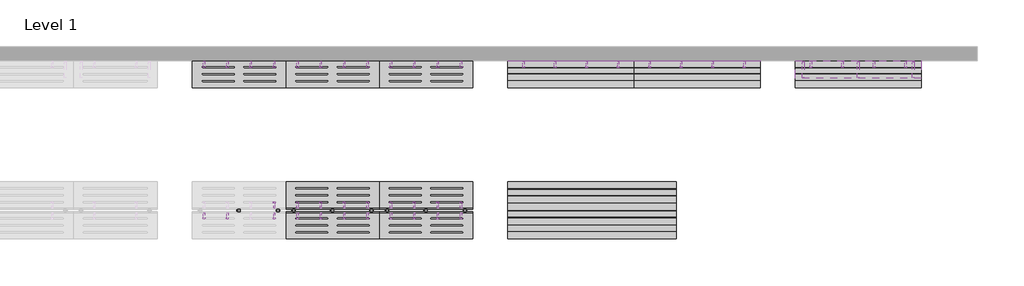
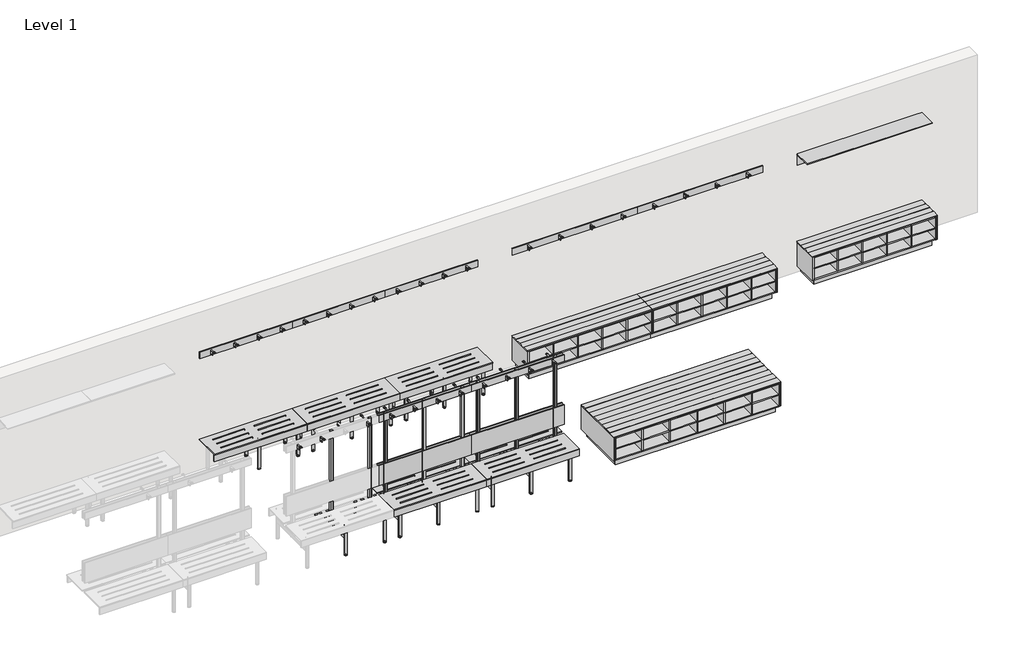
# One storey, part 2 of 2: 75 furniture elements.
"""IFC4 building model written with IfcOpenShell, lengths in millimetres."""

from ifc_helpers import new_model, si_unit, origin, place, context, project, spatial, transform, mapped, element, save
from components import bracket_7d752e66, standard_dd65e5c9, standard_a7376189, standard_561e798c, standard_2dcb62da, standard_f5ae554c, standard_744cab76, standard_9dd12805, standard_776e0859, standard_368e6f3f, standard_c98aecbe, standard_89b8acd5, standard_566b8f76, standard_1e83d22c

model = new_model("IFC4")

# Units and contexts
model_context = context("Model", 3, world=origin())
ifc_project = project(units=[si_unit("LENGTHUNIT", "METRE", prefix="MILLI")], contexts=[model_context])

# Site, building, storey
site = spatial("IfcSite", under=ifc_project)
building = spatial("IfcBuilding", under=site)
storey = spatial("IfcBuildingStorey", under=building, Name="Level 1", Elevation=0.0)

# Furniture
placement = place(None, origin())
bracket_shape = bracket_7d752e66(model_context)
element("IfcFurniture", 1, ObjectType="X_Bench-Bracket-Duracube-Shelving : Bracket", at=placement, inside=storey, context=model_context, shape_type="MappedRepresentation", body=[
    mapped(bracket_shape, transform((630.8316104, 4193.679514, 1717.0), x_axis=(1.0, 0.0, 0.0), y_axis=(0.0, 0.0, 1.0), z_axis=(0.0, -1.0, 0.0))),
])
element("IfcFurniture", 2, ObjectType="X_Bench-Bracket-Duracube-Shelving : Bracket", at=placement, inside=storey, context=model_context, shape_type="MappedRepresentation", body=[
    mapped(bracket_shape, transform((1417.3316104, 4193.679514, 1717.0), x_axis=(1.0, 0.0, 0.0), y_axis=(0.0, 0.0, 1.0), z_axis=(0.0, -1.0, 0.0))),
])
element("IfcFurniture", 3, ObjectType="X_Bench-Bracket-Duracube-Shelving : Bracket", at=placement, inside=storey, context=model_context, shape_type="MappedRepresentation", body=[
    mapped(bracket_shape, transform((2203.8316104, 4193.679514, 1717.0), x_axis=(1.0, 0.0, 0.0), y_axis=(0.0, 0.0, 1.0), z_axis=(0.0, -1.0, 0.0))),
])
standard_shape = standard_dd65e5c9(model_context)
element("IfcFurniture", 4, ObjectType="X_Partition-Robe Hook-Duracube-Door Stop : Standard", at=placement, inside=storey, context=model_context, shape_type="MappedRepresentation", body=[
    mapped(standard_shape, transform((-5916.001723, 2099.9051004, 1619.5), x_axis=(-1.0, 0.0, 0.0), y_axis=(0.0, 0.0, 1.0), z_axis=(0.0, 1.0, 0.0))),
])
element("IfcFurniture", 5, ObjectType="X_Partition-Robe Hook-Duracube-Door Stop : Standard", at=placement, inside=storey, context=model_context, shape_type="MappedRepresentation", body=[
    mapped(standard_shape, transform((-6249.3350563, 2099.9051004, 1619.5), x_axis=(-1.0, 0.0, 0.0), y_axis=(0.0, 0.0, 1.0), z_axis=(0.0, 1.0, 0.0))),
])
element("IfcFurniture", 6, ObjectType="X_Partition-Robe Hook-Duracube-Door Stop : Standard", at=placement, inside=storey, context=model_context, shape_type="MappedRepresentation", body=[
    mapped(standard_shape, transform((-5582.6683896, 2099.9051004, 1619.5), x_axis=(-1.0, 0.0, 0.0), y_axis=(0.0, 0.0, 1.0), z_axis=(0.0, 1.0, 0.0))),
])
element("IfcFurniture", 7, ObjectType="X_Partition-Robe Hook-Duracube-Door Stop : Standard", at=placement, inside=storey, context=model_context, shape_type="MappedRepresentation", body=[
    mapped(standard_shape, transform((-6582.6683896, 2099.9051004, 1619.5), x_axis=(-1.0, 0.0, 0.0), y_axis=(0.0, 0.0, 1.0), z_axis=(0.0, 1.0, 0.0))),
])
element("IfcFurniture", 8, ObjectType="X_Partition-Robe Hook-Duracube-Door Stop : Standard", at=placement, inside=storey, context=model_context, shape_type="MappedRepresentation", body=[
    mapped(standard_shape, transform((-5916.001723, 2038.9051004, 1619.5), x_axis=(1.0, 0.0, 0.0), y_axis=(0.0, 0.0, 1.0), z_axis=(0.0, -1.0, 0.0))),
])
element("IfcFurniture", 9, ObjectType="X_Partition-Robe Hook-Duracube-Door Stop : Standard", at=placement, inside=storey, context=model_context, shape_type="MappedRepresentation", body=[
    mapped(standard_shape, transform((-6249.3350563, 2038.9051004, 1619.5), x_axis=(1.0, 0.0, 0.0), y_axis=(0.0, 0.0, 1.0), z_axis=(0.0, -1.0, 0.0))),
])
element("IfcFurniture", 10, ObjectType="X_Partition-Robe Hook-Duracube-Door Stop : Standard", at=placement, inside=storey, context=model_context, shape_type="MappedRepresentation", body=[
    mapped(standard_shape, transform((-5582.6683896, 2038.9051004, 1619.5), x_axis=(1.0, 0.0, 0.0), y_axis=(0.0, 0.0, 1.0), z_axis=(0.0, -1.0, 0.0))),
])
element("IfcFurniture", 11, ObjectType="X_Partition-Robe Hook-Duracube-Door Stop : Standard", at=placement, inside=storey, context=model_context, shape_type="MappedRepresentation", body=[
    mapped(standard_shape, transform((-6582.6683896, 2038.9051004, 1619.5), x_axis=(1.0, 0.0, 0.0), y_axis=(0.0, 0.0, 1.0), z_axis=(0.0, -1.0, 0.0))),
])
element("IfcFurniture", 12, ObjectType="X_Partition-Robe Hook-Duracube-Door Stop : Standard", at=placement, inside=storey, context=model_context, shape_type="MappedRepresentation", body=[
    mapped(standard_shape, transform((-4582.6683896, 2099.9051004, 1619.5), x_axis=(-1.0, 0.0, 0.0), y_axis=(0.0, 0.0, 1.0), z_axis=(0.0, 1.0, 0.0))),
])
element("IfcFurniture", 13, ObjectType="X_Partition-Robe Hook-Duracube-Door Stop : Standard", at=placement, inside=storey, context=model_context, shape_type="MappedRepresentation", body=[
    mapped(standard_shape, transform((-4916.001723, 2099.9051004, 1619.5), x_axis=(-1.0, 0.0, 0.0), y_axis=(0.0, 0.0, 1.0), z_axis=(0.0, 1.0, 0.0))),
])
element("IfcFurniture", 14, ObjectType="X_Partition-Robe Hook-Duracube-Door Stop : Standard", at=placement, inside=storey, context=model_context, shape_type="MappedRepresentation", body=[
    mapped(standard_shape, transform((-4249.3350563, 2099.9051004, 1619.5), x_axis=(-1.0, 0.0, 0.0), y_axis=(0.0, 0.0, 1.0), z_axis=(0.0, 1.0, 0.0))),
])
element("IfcFurniture", 15, ObjectType="X_Partition-Robe Hook-Duracube-Door Stop : Standard", at=placement, inside=storey, context=model_context, shape_type="MappedRepresentation", body=[
    mapped(standard_shape, transform((-5249.3350563, 2099.9051004, 1619.5), x_axis=(-1.0, 0.0, 0.0), y_axis=(0.0, 0.0, 1.0), z_axis=(0.0, 1.0, 0.0))),
])
element("IfcFurniture", 16, ObjectType="X_Partition-Robe Hook-Duracube-Door Stop : Standard", at=placement, inside=storey, context=model_context, shape_type="MappedRepresentation", body=[
    mapped(standard_shape, transform((-4582.6683896, 2038.9051004, 1619.5), x_axis=(1.0, 0.0, 0.0), y_axis=(0.0, 0.0, 1.0), z_axis=(0.0, -1.0, 0.0))),
])
element("IfcFurniture", 17, ObjectType="X_Partition-Robe Hook-Duracube-Door Stop : Standard", at=placement, inside=storey, context=model_context, shape_type="MappedRepresentation", body=[
    mapped(standard_shape, transform((-4916.001723, 2038.9051004, 1619.5), x_axis=(1.0, 0.0, 0.0), y_axis=(0.0, 0.0, 1.0), z_axis=(0.0, -1.0, 0.0))),
])
element("IfcFurniture", 18, ObjectType="X_Partition-Robe Hook-Duracube-Door Stop : Standard", at=placement, inside=storey, context=model_context, shape_type="MappedRepresentation", body=[
    mapped(standard_shape, transform((-4249.3350563, 2038.9051004, 1619.5), x_axis=(1.0, 0.0, 0.0), y_axis=(0.0, 0.0, 1.0), z_axis=(0.0, -1.0, 0.0))),
])
element("IfcFurniture", 19, ObjectType="X_Partition-Robe Hook-Duracube-Door Stop : Standard", at=placement, inside=storey, context=model_context, shape_type="MappedRepresentation", body=[
    mapped(standard_shape, transform((-5249.3350563, 2038.9051004, 1619.5), x_axis=(1.0, 0.0, 0.0), y_axis=(0.0, 0.0, 1.0), z_axis=(0.0, -1.0, 0.0))),
])
element("IfcFurniture", 20, ObjectType="X_Partition-Robe Hook-Duracube-Door Stop : Standard", at=placement, inside=storey, context=model_context, shape_type="MappedRepresentation", body=[
    mapped(standard_shape, transform((-6916.001723, 2099.9051004, 1619.5), x_axis=(-1.0, 0.0, 0.0), y_axis=(0.0, 0.0, 1.0), z_axis=(0.0, 1.0, 0.0))),
])
element("IfcFurniture", 21, ObjectType="X_Partition-Robe Hook-Duracube-Door Stop : Standard", at=placement, inside=storey, context=model_context, shape_type="MappedRepresentation", body=[
    mapped(standard_shape, transform((-7582.6683896, 2038.9051004, 1619.5), x_axis=(1.0, 0.0, 0.0), y_axis=(0.0, 0.0, 1.0), z_axis=(0.0, -1.0, 0.0))),
])
element("IfcFurniture", 22, ObjectType="X_Partition-Robe Hook-Duracube-Door Stop : Standard", at=placement, inside=storey, context=model_context, shape_type="MappedRepresentation", body=[
    mapped(standard_shape, transform((-6916.001723, 2038.9051004, 1619.5), x_axis=(1.0, 0.0, 0.0), y_axis=(0.0, 0.0, 1.0), z_axis=(0.0, -1.0, 0.0))),
])
element("IfcFurniture", 23, ObjectType="X_Partition-Robe Hook-Duracube-Door Stop : Standard", at=placement, inside=storey, context=model_context, shape_type="MappedRepresentation", body=[
    mapped(standard_shape, transform((-7916.001723, 2038.9051004, 1619.5), x_axis=(1.0, 0.0, 0.0), y_axis=(0.0, 0.0, 1.0), z_axis=(0.0, -1.0, 0.0))),
])
element("IfcFurniture", 24, ObjectType="X_Partition-Robe Hook-Duracube-Door Stop : Standard", at=placement, inside=storey, context=model_context, shape_type="MappedRepresentation", body=[
    mapped(standard_shape, transform((-5916.001723, 4193.679514, 1749.5), x_axis=(1.0, 0.0, 0.0), y_axis=(0.0, 0.0, 1.0), z_axis=(0.0, -1.0, 0.0))),
])
element("IfcFurniture", 25, ObjectType="X_Partition-Robe Hook-Duracube-Door Stop : Standard", at=placement, inside=storey, context=model_context, shape_type="MappedRepresentation", body=[
    mapped(standard_shape, transform((-6249.3350563, 4193.679514, 1749.5), x_axis=(1.0, 0.0, 0.0), y_axis=(0.0, 0.0, 1.0), z_axis=(0.0, -1.0, 0.0))),
])
element("IfcFurniture", 26, ObjectType="X_Partition-Robe Hook-Duracube-Door Stop : Standard", at=placement, inside=storey, context=model_context, shape_type="MappedRepresentation", body=[
    mapped(standard_shape, transform((-5582.6683896, 4193.679514, 1749.5), x_axis=(1.0, 0.0, 0.0), y_axis=(0.0, 0.0, 1.0), z_axis=(0.0, -1.0, 0.0))),
])
element("IfcFurniture", 27, ObjectType="X_Partition-Robe Hook-Duracube-Door Stop : Standard", at=placement, inside=storey, context=model_context, shape_type="MappedRepresentation", body=[
    mapped(standard_shape, transform((-6582.6683896, 4193.679514, 1749.5), x_axis=(1.0, 0.0, 0.0), y_axis=(0.0, 0.0, 1.0), z_axis=(0.0, -1.0, 0.0))),
])
element("IfcFurniture", 28, ObjectType="X_Partition-Robe Hook-Duracube-Door Stop : Standard", at=placement, inside=storey, context=model_context, shape_type="MappedRepresentation", body=[
    mapped(standard_shape, transform((-4582.6683896, 4193.679514, 1749.5), x_axis=(1.0, 0.0, 0.0), y_axis=(0.0, 0.0, 1.0), z_axis=(0.0, -1.0, 0.0))),
])
element("IfcFurniture", 29, ObjectType="X_Partition-Robe Hook-Duracube-Door Stop : Standard", at=placement, inside=storey, context=model_context, shape_type="MappedRepresentation", body=[
    mapped(standard_shape, transform((-4916.001723, 4193.679514, 1749.5), x_axis=(1.0, 0.0, 0.0), y_axis=(0.0, 0.0, 1.0), z_axis=(0.0, -1.0, 0.0))),
])
element("IfcFurniture", 30, ObjectType="X_Partition-Robe Hook-Duracube-Door Stop : Standard", at=placement, inside=storey, context=model_context, shape_type="MappedRepresentation", body=[
    mapped(standard_shape, transform((-4249.3350563, 4193.679514, 1749.5), x_axis=(1.0, 0.0, 0.0), y_axis=(0.0, 0.0, 1.0), z_axis=(0.0, -1.0, 0.0))),
])
element("IfcFurniture", 31, ObjectType="X_Partition-Robe Hook-Duracube-Door Stop : Standard", at=placement, inside=storey, context=model_context, shape_type="MappedRepresentation", body=[
    mapped(standard_shape, transform((-5249.3350563, 4193.679514, 1749.5), x_axis=(1.0, 0.0, 0.0), y_axis=(0.0, 0.0, 1.0), z_axis=(0.0, -1.0, 0.0))),
])
element("IfcFurniture", 32, ObjectType="X_Partition-Robe Hook-Duracube-Door Stop : Standard", at=placement, inside=storey, context=model_context, shape_type="MappedRepresentation", body=[
    mapped(standard_shape, transform((-7249.3350563, 4193.679514, 1749.5), x_axis=(1.0, 0.0, 0.0), y_axis=(0.0, 0.0, 1.0), z_axis=(0.0, -1.0, 0.0))),
])
element("IfcFurniture", 33, ObjectType="X_Partition-Robe Hook-Duracube-Door Stop : Standard", at=placement, inside=storey, context=model_context, shape_type="MappedRepresentation", body=[
    mapped(standard_shape, transform((-7582.6683896, 4193.679514, 1749.5), x_axis=(1.0, 0.0, 0.0), y_axis=(0.0, 0.0, 1.0), z_axis=(0.0, -1.0, 0.0))),
])
element("IfcFurniture", 34, ObjectType="X_Partition-Robe Hook-Duracube-Door Stop : Standard", at=placement, inside=storey, context=model_context, shape_type="MappedRepresentation", body=[
    mapped(standard_shape, transform((-6916.001723, 4193.679514, 1749.5), x_axis=(1.0, 0.0, 0.0), y_axis=(0.0, 0.0, 1.0), z_axis=(0.0, -1.0, 0.0))),
])
element("IfcFurniture", 35, ObjectType="X_Partition-Robe Hook-Duracube-Door Stop : Standard", at=placement, inside=storey, context=model_context, shape_type="MappedRepresentation", body=[
    mapped(standard_shape, transform((-7916.001723, 4193.679514, 1749.5), x_axis=(1.0, 0.0, 0.0), y_axis=(0.0, 0.0, 1.0), z_axis=(0.0, -1.0, 0.0))),
])
element("IfcFurniture", 36, ObjectType="X_Partition-Robe Hook-Duracube-Door Stop : Standard", at=placement, inside=storey, context=model_context, shape_type="MappedRepresentation", body=[
    mapped(standard_shape, transform((-2457.6683896, 4193.679514, 1749.5), x_axis=(1.0, 0.0, 0.0), y_axis=(0.0, 0.0, 1.0), z_axis=(0.0, -1.0, 0.0))),
])
element("IfcFurniture", 37, ObjectType="X_Partition-Robe Hook-Duracube-Door Stop : Standard", at=placement, inside=storey, context=model_context, shape_type="MappedRepresentation", body=[
    mapped(standard_shape, transform((-2907.6683896, 4193.679514, 1749.5), x_axis=(1.0, 0.0, 0.0), y_axis=(0.0, 0.0, 1.0), z_axis=(0.0, -1.0, 0.0))),
])
element("IfcFurniture", 38, ObjectType="X_Partition-Robe Hook-Duracube-Door Stop : Standard", at=placement, inside=storey, context=model_context, shape_type="MappedRepresentation", body=[
    mapped(standard_shape, transform((-2007.6683896, 4193.679514, 1749.5), x_axis=(1.0, 0.0, 0.0), y_axis=(0.0, 0.0, 1.0), z_axis=(0.0, -1.0, 0.0))),
])
element("IfcFurniture", 39, ObjectType="X_Partition-Robe Hook-Duracube-Door Stop : Standard", at=placement, inside=storey, context=model_context, shape_type="MappedRepresentation", body=[
    mapped(standard_shape, transform((-3357.6683896, 4193.679514, 1749.5), x_axis=(1.0, 0.0, 0.0), y_axis=(0.0, 0.0, 1.0), z_axis=(0.0, -1.0, 0.0))),
])
element("IfcFurniture", 40, ObjectType="X_Partition-Robe Hook-Duracube-Door Stop : Standard", at=placement, inside=storey, context=model_context, shape_type="MappedRepresentation", body=[
    mapped(standard_shape, transform((-657.6683896, 4193.679514, 1749.5), x_axis=(1.0, 0.0, 0.0), y_axis=(0.0, 0.0, 1.0), z_axis=(0.0, -1.0, 0.0))),
])
element("IfcFurniture", 41, ObjectType="X_Partition-Robe Hook-Duracube-Door Stop : Standard", at=placement, inside=storey, context=model_context, shape_type="MappedRepresentation", body=[
    mapped(standard_shape, transform((-1107.6683896, 4193.679514, 1749.5), x_axis=(1.0, 0.0, 0.0), y_axis=(0.0, 0.0, 1.0), z_axis=(0.0, -1.0, 0.0))),
])
element("IfcFurniture", 42, ObjectType="X_Partition-Robe Hook-Duracube-Door Stop : Standard", at=placement, inside=storey, context=model_context, shape_type="MappedRepresentation", body=[
    mapped(standard_shape, transform((-207.6683896, 4193.679514, 1749.5), x_axis=(1.0, 0.0, 0.0), y_axis=(0.0, 0.0, 1.0), z_axis=(0.0, -1.0, 0.0))),
])
element("IfcFurniture", 43, ObjectType="X_Partition-Robe Hook-Duracube-Door Stop : Standard", at=placement, inside=storey, context=model_context, shape_type="MappedRepresentation", body=[
    mapped(standard_shape, transform((-1557.6683896, 4193.679514, 1749.5), x_axis=(1.0, 0.0, 0.0), y_axis=(0.0, 0.0, 1.0), z_axis=(0.0, -1.0, 0.0))),
])
element("IfcFurniture", 44, ObjectType="X_Partition-Robe Hook-Duracube-Door Stop : Standard", at=placement, inside=storey, context=model_context, shape_type="MappedRepresentation", body=[
    mapped(standard_shape, transform((1642.3316104, 4193.679514, 1686.5), x_axis=(1.0, 0.0, 0.0), y_axis=(0.0, 0.0, 1.0), z_axis=(0.0, -1.0, 0.0))),
])
element("IfcFurniture", 45, ObjectType="X_Partition-Robe Hook-Duracube-Door Stop : Standard", at=placement, inside=storey, context=model_context, shape_type="MappedRepresentation", body=[
    mapped(standard_shape, transform((1192.3316104, 4193.679514, 1686.5), x_axis=(1.0, 0.0, 0.0), y_axis=(0.0, 0.0, 1.0), z_axis=(0.0, -1.0, 0.0))),
])
element("IfcFurniture", 46, ObjectType="X_Partition-Robe Hook-Duracube-Door Stop : Standard", at=placement, inside=storey, context=model_context, shape_type="MappedRepresentation", body=[
    mapped(standard_shape, transform((2092.3316104, 4193.679514, 1686.5), x_axis=(1.0, 0.0, 0.0), y_axis=(0.0, 0.0, 1.0), z_axis=(0.0, -1.0, 0.0))),
])
element("IfcFurniture", 47, ObjectType="X_Partition-Robe Hook-Duracube-Door Stop : Standard", at=placement, inside=storey, context=model_context, shape_type="MappedRepresentation", body=[
    mapped(standard_shape, transform((742.3316104, 4193.679514, 1686.5), x_axis=(1.0, 0.0, 0.0), y_axis=(0.0, 0.0, 1.0), z_axis=(0.0, -1.0, 0.0))),
])
standard_2_shape = standard_a7376189(model_context)
element("IfcFurniture", 48, ObjectType="X_Bench-Foot-Duracube-Assembly : Standard", at=placement, inside=storey, context=model_context, shape_type="MappedRepresentation", body=[
    mapped(standard_2_shape, transform((-6680.5353827, 2461.9051004, 0.0), x_axis=(1.0, 0.0, 0.0), y_axis=(0.0, 1.0, 0.0), z_axis=(0.0, 0.0, 1.0))),
])
element("IfcFurniture", 49, ObjectType="X_Bench-Foot-Duracube-Assembly : Standard", at=placement, inside=storey, context=model_context, shape_type="MappedRepresentation", body=[
    mapped(standard_2_shape, transform((-6127.3687161, 2461.9051004, 0.0), x_axis=(1.0, 0.0, 0.0), y_axis=(0.0, 1.0, 0.0), z_axis=(0.0, 0.0, 1.0))),
])
element("IfcFurniture", 50, ObjectType="X_Bench-Foot-Duracube-Assembly : Standard", at=placement, inside=storey, context=model_context, shape_type="MappedRepresentation", body=[
    mapped(standard_2_shape, transform((-5347.2020494, 2461.9051004, 0.0), x_axis=(1.0, 0.0, 0.0), y_axis=(0.0, 1.0, 0.0), z_axis=(0.0, 0.0, 1.0))),
])
element("IfcFurniture", 51, ObjectType="X_Bench-Foot-Duracube-Assembly : Standard", at=placement, inside=storey, context=model_context, shape_type="MappedRepresentation", body=[
    mapped(standard_2_shape, transform((-4794.0353827, 2461.9051004, 0.0), x_axis=(1.0, 0.0, 0.0), y_axis=(0.0, 1.0, 0.0), z_axis=(0.0, 0.0, 1.0))),
])
element("IfcFurniture", 52, ObjectType="X_Bench-Foot-Duracube-Assembly : Standard", at=placement, inside=storey, context=model_context, shape_type="MappedRepresentation", body=[
    mapped(standard_2_shape, transform((-7460.7020494, 2461.9051004, 0.0), x_axis=(1.0, 0.0, 0.0), y_axis=(0.0, 1.0, 0.0), z_axis=(0.0, 0.0, 1.0))),
])
standard_3_shape = standard_561e798c(model_context)
element("IfcFurniture", 53, ObjectType="X_Bench-Foot-Duracube-Assembly : Standard", at=placement, inside=storey, context=model_context, shape_type="MappedRepresentation", body=[
    mapped(standard_3_shape, transform((-5484.8013965, 2461.9051004, 0.0), x_axis=(-1.0, 0.0, 0.0), y_axis=(0.0, -1.0, 0.0), z_axis=(0.0, 0.0, 1.0))),
])
element("IfcFurniture", 54, ObjectType="X_Bench-Foot-Duracube-Assembly : Standard", at=placement, inside=storey, context=model_context, shape_type="MappedRepresentation", body=[
    mapped(standard_3_shape, transform((-4151.4680632, 2461.9051004, 0.0), x_axis=(-1.0, 0.0, 0.0), y_axis=(0.0, -1.0, 0.0), z_axis=(0.0, 0.0, 1.0))),
])
element("IfcFurniture", 55, ObjectType="X_Bench-Foot-Duracube-Assembly : Standard", at=placement, inside=storey, context=model_context, shape_type="MappedRepresentation", body=[
    mapped(standard_3_shape, transform((-6818.1347299, 2461.9051004, 0.0), x_axis=(-1.0, 0.0, 0.0), y_axis=(0.0, -1.0, 0.0), z_axis=(0.0, 0.0, 1.0))),
])
standard_4_shape = standard_2dcb62da(model_context)
element("IfcFurniture", 56, ObjectType="X_Bench-Foot-Duracube-Wall Assembly : Standard", at=placement, inside=storey, context=model_context, shape_type="MappedRepresentation", body=[
    mapped(standard_4_shape, transform((-6680.5353827, 4206.679514, 0.0), x_axis=(1.0, 0.0, 0.0), y_axis=(0.0, 1.0, 0.0), z_axis=(0.0, 0.0, 1.0))),
])
element("IfcFurniture", 57, ObjectType="X_Bench-Foot-Duracube-Wall Assembly : Standard", at=placement, inside=storey, context=model_context, shape_type="MappedRepresentation", body=[
    mapped(standard_4_shape, transform((-6127.3687161, 4206.679514, 0.0), x_axis=(1.0, 0.0, 0.0), y_axis=(0.0, 1.0, 0.0), z_axis=(0.0, 0.0, 1.0))),
])
element("IfcFurniture", 58, ObjectType="X_Bench-Foot-Duracube-Wall Assembly : Standard", at=placement, inside=storey, context=model_context, shape_type="MappedRepresentation", body=[
    mapped(standard_4_shape, transform((-5347.2020494, 4206.679514, 0.0), x_axis=(1.0, 0.0, 0.0), y_axis=(0.0, 1.0, 0.0), z_axis=(0.0, 0.0, 1.0))),
])
element("IfcFurniture", 59, ObjectType="X_Bench-Foot-Duracube-Wall Assembly : Standard", at=placement, inside=storey, context=model_context, shape_type="MappedRepresentation", body=[
    mapped(standard_4_shape, transform((-4794.0353827, 4206.679514, 0.0), x_axis=(1.0, 0.0, 0.0), y_axis=(0.0, 1.0, 0.0), z_axis=(0.0, 0.0, 1.0))),
])
element("IfcFurniture", 60, ObjectType="X_Bench-Foot-Duracube-Wall Assembly : Standard", at=placement, inside=storey, context=model_context, shape_type="MappedRepresentation", body=[
    mapped(standard_4_shape, transform((-7460.7020494, 4206.679514, 0.0), x_axis=(1.0, 0.0, 0.0), y_axis=(0.0, 1.0, 0.0), z_axis=(0.0, 0.0, 1.0))),
])
standard_5_shape = standard_f5ae554c(model_context)
element("IfcFurniture", 61, ObjectType="X_Bench-Foot-Duracube-Wall Assembly : Standard", at=placement, inside=storey, context=model_context, shape_type="MappedRepresentation", body=[
    mapped(standard_5_shape, transform((-5484.8013965, 4206.679514, 0.0), x_axis=(-1.0, 0.0, 0.0), y_axis=(0.0, -1.0, 0.0), z_axis=(0.0, 0.0, 1.0))),
])
element("IfcFurniture", 62, ObjectType="X_Bench-Foot-Duracube-Wall Assembly : Standard", at=placement, inside=storey, context=model_context, shape_type="MappedRepresentation", body=[
    mapped(standard_5_shape, transform((-4151.4680632, 4206.679514, 0.0), x_axis=(-1.0, 0.0, 0.0), y_axis=(0.0, -1.0, 0.0), z_axis=(0.0, 0.0, 1.0))),
])
element("IfcFurniture", 63, ObjectType="X_Bench-Foot-Duracube-Wall Assembly : Standard", at=placement, inside=storey, context=model_context, shape_type="MappedRepresentation", body=[
    mapped(standard_5_shape, transform((-6818.1347299, 4206.679514, 0.0), x_axis=(-1.0, 0.0, 0.0), y_axis=(0.0, -1.0, 0.0), z_axis=(0.0, 0.0, 1.0))),
])
standard_6_shape = standard_744cab76(model_context)
element("IfcFurniture", 64, ObjectType="X_Bench-Wall-Duracube-Standard : Standard", at=placement, inside=storey, context=model_context, shape_type="MappedRepresentation", body=[
    mapped(standard_6_shape, transform((-6127.3687161, 4614.179514, 0.0), x_axis=(1.0, 0.0, 0.0), y_axis=(0.0, 1.0, 0.0), z_axis=(0.0, 0.0, 1.0))),
])
element("IfcFurniture", 65, ObjectType="X_Bench-Wall-Duracube-Standard : Standard", at=placement, inside=storey, context=model_context, shape_type="MappedRepresentation", body=[
    mapped(standard_6_shape, transform((-4794.0353827, 4614.179514, 0.0), x_axis=(1.0, 0.0, 0.0), y_axis=(0.0, 1.0, 0.0), z_axis=(0.0, 0.0, 1.0))),
])
element("IfcFurniture", 66, ObjectType="X_Bench-Wall-Duracube-Standard : Standard", at=placement, inside=storey, context=model_context, shape_type="MappedRepresentation", body=[
    mapped(standard_6_shape, transform((-7460.7020494, 4614.179514, 0.0), x_axis=(1.0, 0.0, 0.0), y_axis=(0.0, 1.0, 0.0), z_axis=(0.0, 0.0, 1.0))),
])
standard_7_shape = standard_9dd12805(model_context)
element("IfcFurniture", 67, ObjectType="X_Bench-Island-Duracube-Standard : Standard", at=placement, inside=storey, context=model_context, shape_type="MappedRepresentation", body=[
    mapped(standard_7_shape, transform((-6127.3687161, 2476.9051004, 0.0), x_axis=(1.0, 0.0, 0.0), y_axis=(0.0, 1.0, 0.0), z_axis=(0.0, 0.0, 1.0))),
])
element("IfcFurniture", 68, ObjectType="X_Bench-Island-Duracube-Standard : Standard", at=placement, inside=storey, context=model_context, shape_type="MappedRepresentation", body=[
    mapped(standard_7_shape, transform((-4794.0353827, 2476.9051004, 0.0), x_axis=(1.0, 0.0, 0.0), y_axis=(0.0, 1.0, 0.0), z_axis=(0.0, 0.0, 1.0))),
])
standard_8_shape = standard_776e0859(model_context)
element("IfcFurniture", 69, ObjectType="X_Bench-Island-Duracube-Shoe Box : Standard", at=placement, inside=storey, context=model_context, shape_type="MappedRepresentation", body=[
    mapped(standard_8_shape, transform((-2427.3687161, 2454.4051004, 0.0), x_axis=(1.0, 0.0, 0.0), y_axis=(0.0, 1.0, 0.0), z_axis=(0.0, 0.0, 1.0))),
])
standard_9_shape = standard_368e6f3f(model_context)
element("IfcFurniture", 70, ObjectType="X_Bench-Wall-Duracube-Shoe Box with Fixtures : Standard", at=placement, inside=storey, context=model_context, shape_type="MappedRepresentation", body=[
    mapped(standard_9_shape, transform((-2727.3687161, 4614.179514, 0.0), x_axis=(1.0, 0.0, 0.0), y_axis=(0.0, 1.0, 0.0), z_axis=(0.0, 0.0, 1.0))),
])
standard_10_shape = standard_c98aecbe(model_context)
element("IfcFurniture", 71, ObjectType="X_Bench-Wall-Duracube-Shoe Box : Standard", at=placement, inside=storey, context=model_context, shape_type="MappedRepresentation", body=[
    mapped(standard_10_shape, transform((-2727.3687161, 4614.179514, 0.0), x_axis=(1.0, 0.0, 0.0), y_axis=(0.0, 1.0, 0.0), z_axis=(0.0, 0.0, 1.0))),
])
element("IfcFurniture", 72, ObjectType="X_Bench-Wall-Duracube-Shoe Box with Fixtures : Standard", at=placement, inside=storey, context=model_context, shape_type="MappedRepresentation", body=[
    mapped(standard_9_shape, transform((-927.3687161, 4614.179514, 0.0), x_axis=(1.0, 0.0, 0.0), y_axis=(0.0, 1.0, 0.0), z_axis=(0.0, 0.0, 1.0))),
])
standard_11_shape = standard_89b8acd5(model_context)
element("IfcFurniture", 73, ObjectType="X_Bench-Wall-Duracube-Shoe Box : Standard", at=placement, inside=storey, context=model_context, shape_type="MappedRepresentation", body=[
    mapped(standard_11_shape, transform((-927.3687161, 4614.179514, 0.0), x_axis=(1.0, 0.0, 0.0), y_axis=(0.0, 1.0, 0.0), z_axis=(0.0, 0.0, 1.0))),
])
standard_12_shape = standard_566b8f76(model_context)
element("IfcFurniture", 74, ObjectType="X_Bench-Wall-Duracube-Shoe Box with Fixtures : Standard", at=placement, inside=storey, context=model_context, shape_type="MappedRepresentation", body=[
    mapped(standard_12_shape, transform((1372.6312839, 4614.179514, 0.0), x_axis=(1.0, 0.0, 0.0), y_axis=(0.0, 1.0, 0.0), z_axis=(0.0, 0.0, 1.0))),
])
standard_13_shape = standard_1e83d22c(model_context)
element("IfcFurniture", 75, ObjectType="X_Bench-Wall-Duracube-Shoe Box : Standard", at=placement, inside=storey, context=model_context, shape_type="MappedRepresentation", body=[
    mapped(standard_13_shape, transform((1372.6312839, 4614.179514, 0.0), x_axis=(1.0, 0.0, 0.0), y_axis=(0.0, 1.0, 0.0), z_axis=(0.0, 0.0, 1.0))),
])

save(model, "model.ifc")
